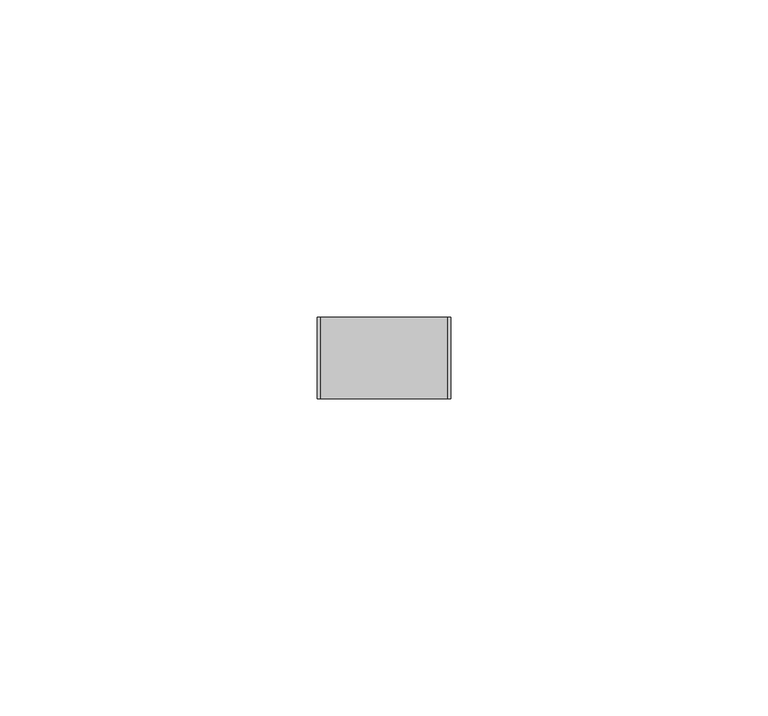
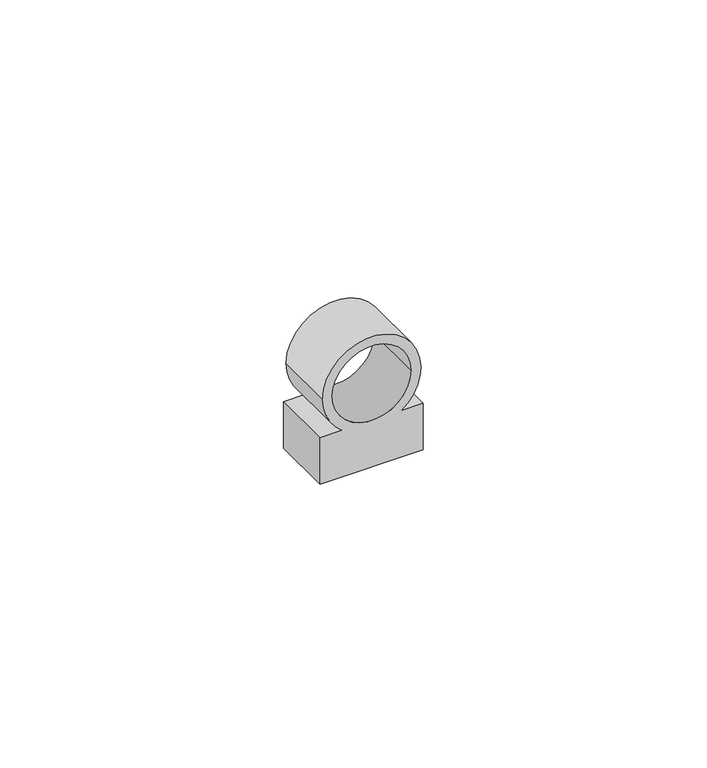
"""IFC4 building model written with IfcOpenShell, lengths in millimetres: cable carrier fitting geometry."""

from ifc_helpers import new_model, si_unit, point, frame, frame_2d, origin, place, context, project, spatial, polyline, circle_curve, trimmed, segment, composite_curve, outline, extrude, source, transform, mapped, element, save


def cable_carrier_fitting_f97c49a7(model_context):
    return source(origin(), model_context, "Body", "SweptSolid", [
        extrude(outline(composite_curve([segment(trimmed(circle_curve(frame_2d((18.0, 0.0)), 10.0), [point((18.0, 10.0))], [point((18.0, -10.0))], False, "CARTESIAN"), True, "CONTINUOUS"), segment(trimmed(circle_curve(frame_2d((18.0, 0.0)), 10.0), [point((18.0, -10.0))], [point((10.0, -6.0))], False, "CARTESIAN"), True, "CONTINUOUS"), segment(polyline([(10.0, -6.0), (10.0, -10.5), (0.0, -10.5), (0.0, 10.5), (10.0, 10.5), (10.0, 6.0)]), True, "CONTINUOUS"), segment(trimmed(circle_curve(frame_2d((18.0, 0.0)), 10.0), [point((10.0, 6.0))], [point((18.0, 10.0))], False, "CARTESIAN"), True, "CONTINUOUS")], self_intersect=False), holes=[composite_curve([segment(trimmed(circle_curve(frame_2d((18.0, 0.0)), 8.0), [point((18.0, -8.0))], [point((18.0, 8.0))], True, "CARTESIAN"), True, "CONTINUOUS"), segment(trimmed(circle_curve(frame_2d((18.0, 0.0)), 8.0), [point((18.0, 8.0))], [point((18.0, -8.0))], True, "CARTESIAN"), True, "CONTINUOUS")], self_intersect=False)]), frame((0.0, -6.4, 0.0), z_axis=(0.0, 1.0, 0.0), x_axis=(0.0, 0.0, 1.0)), (0.0, 0.0, 1.0), 12.8),
    ])


if __name__ == "__main__":
    model = new_model("IFC4")
    model_context = context("Model", 3, world=origin())
    ifc_project = project(units=[si_unit("LENGTHUNIT", "METRE", prefix="MILLI")], contexts=[model_context])
    site = spatial("IfcSite", under=ifc_project)
    building = spatial("IfcBuilding", under=site)
    placement = place(None, origin())
    cable_carrier_fitting_shape = cable_carrier_fitting_f97c49a7(model_context)
    element("IfcCableCarrierFitting", 1, at=placement, inside=building, context=model_context, shape_type="MappedRepresentation", body=[
        mapped(cable_carrier_fitting_shape, transform((0.0, 0.0, 0.0), x_axis=(1.0, 0.0, 0.0), y_axis=(0.0, 1.0, 0.0), z_axis=(0.0, 0.0, 1.0))),
    ])
    save(model, "model.ifc")
